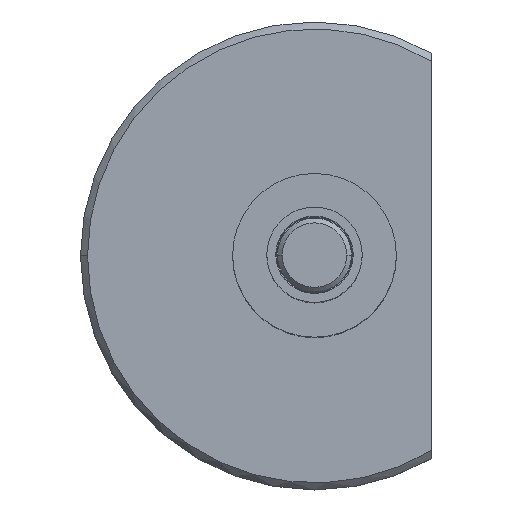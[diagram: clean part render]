
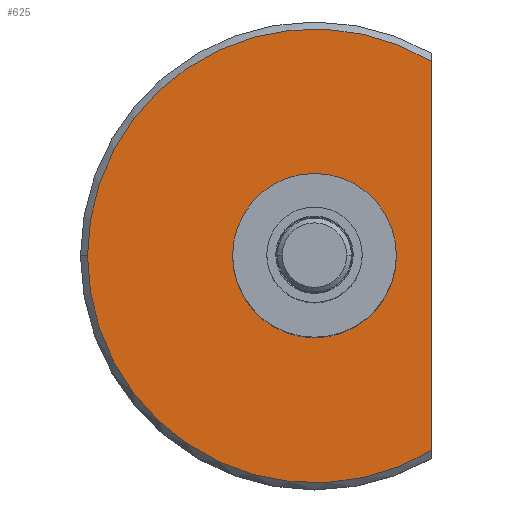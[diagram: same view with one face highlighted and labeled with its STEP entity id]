
A CAD part, top view. The second image highlights one B-rep face of the part: STEP entity #625.
In plain terms, the highlighted planar face has unit normal (0, 0, 1).
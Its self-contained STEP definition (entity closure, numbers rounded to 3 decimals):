
#2 = DIRECTION ( 'NONE',  ( 1., 0., 0. ) ) ;
#9 = CARTESIAN_POINT ( 'NONE',  ( 0., 0., -18.796 ) ) ;
#18 = CIRCLE ( 'NONE', #1087, 12.319 ) ;
#40 = CARTESIAN_POINT ( 'NONE',  ( -12.319, 0., -18.796 ) ) ;
#48 = CARTESIAN_POINT ( 'NONE',  ( 0., 0., -18.796 ) ) ;
#56 = EDGE_CURVE ( 'NONE', #841, #1222, #953, .T. ) ;
#58 = AXIS2_PLACEMENT_3D ( 'NONE', #1045, #468, #1151 ) ;
#124 = DIRECTION ( 'NONE',  ( 1., 0., 0. ) ) ;
#125 = EDGE_LOOP ( 'NONE', ( #373, #346, #575 ) ) ;
#140 = DIRECTION ( 'NONE',  ( 1., 0., 0. ) ) ;
#142 = EDGE_LOOP ( 'NONE', ( #1133, #845 ) ) ;
#189 = LINE ( 'NONE', #928, #708 ) ;
#324 = CIRCLE ( 'NONE', #392, 4.445 ) ;
#346 = ORIENTED_EDGE ( 'NONE', *, *, #56, .T. ) ;
#347 = CARTESIAN_POINT ( 'NONE',  ( 6.35, -10.556, -18.796 ) ) ;
#367 = AXIS2_PLACEMENT_3D ( 'NONE', #48, #730, #140 ) ;
#373 = ORIENTED_EDGE ( 'NONE', *, *, #1256, .T. ) ;
#392 = AXIS2_PLACEMENT_3D ( 'NONE', #9, #583, #1169 ) ;
#452 = VERTEX_POINT ( 'NONE', #489 ) ;
#468 = DIRECTION ( 'NONE',  ( 0., 0., -1. ) ) ;
#489 = CARTESIAN_POINT ( 'NONE',  ( -4.445, 0., -18.796 ) ) ;
#547 = DIRECTION ( 'NONE',  ( 0., 0., 1. ) ) ;
#551 = EDGE_CURVE ( 'NONE', #742, #452, #324, .T. ) ;
#575 = ORIENTED_EDGE ( 'NONE', *, *, #1050, .F. ) ;
#583 = DIRECTION ( 'NONE',  ( 0., 0., 1. ) ) ;
#625 = ADVANCED_FACE ( 'NONE', ( #684, #1159 ), #851, .F. ) ;
#684 = FACE_BOUND ( 'NONE', #142, .T. ) ;
#708 = VECTOR ( 'NONE', #834, 1000. ) ;
#718 = CARTESIAN_POINT ( 'NONE',  ( 0., 0., -18.796 ) ) ;
#725 = EDGE_CURVE ( 'NONE', #452, #742, #1262, .T. ) ;
#730 = DIRECTION ( 'NONE',  ( 0., 0., 1. ) ) ;
#742 = VERTEX_POINT ( 'NONE', #888 ) ;
#811 = CARTESIAN_POINT ( 'NONE',  ( 6.35, 10.556, -18.796 ) ) ;
#834 = DIRECTION ( 'NONE',  ( 0., -1., 0. ) ) ;
#841 = VERTEX_POINT ( 'NONE', #40 ) ;
#845 = ORIENTED_EDGE ( 'NONE', *, *, #725, .F. ) ;
#851 = PLANE ( 'NONE',  #58 ) ;
#873 = VERTEX_POINT ( 'NONE', #811 ) ;
#888 = CARTESIAN_POINT ( 'NONE',  ( 4.445, 0., -18.796 ) ) ;
#928 = CARTESIAN_POINT ( 'NONE',  ( 6.35, 10.999, -18.796 ) ) ;
#947 = CARTESIAN_POINT ( 'NONE',  ( 0., 0., -18.796 ) ) ;
#953 = CIRCLE ( 'NONE', #367, 12.319 ) ;
#969 = AXIS2_PLACEMENT_3D ( 'NONE', #947, #547, #2 ) ;
#1009 = DIRECTION ( 'NONE',  ( 0., 0., 1. ) ) ;
#1045 = CARTESIAN_POINT ( 'NONE',  ( 0., 4.445, -18.796 ) ) ;
#1050 = EDGE_CURVE ( 'NONE', #873, #1222, #189, .T. ) ;
#1087 = AXIS2_PLACEMENT_3D ( 'NONE', #718, #1009, #124 ) ;
#1133 = ORIENTED_EDGE ( 'NONE', *, *, #551, .F. ) ;
#1151 = DIRECTION ( 'NONE',  ( -1., 0., 0. ) ) ;
#1159 = FACE_OUTER_BOUND ( 'NONE', #125, .T. ) ;
#1169 = DIRECTION ( 'NONE',  ( 1., 0., 0. ) ) ;
#1222 = VERTEX_POINT ( 'NONE', #347 ) ;
#1256 = EDGE_CURVE ( 'NONE', #873, #841, #18, .T. ) ;
#1262 = CIRCLE ( 'NONE', #969, 4.445 ) ;
